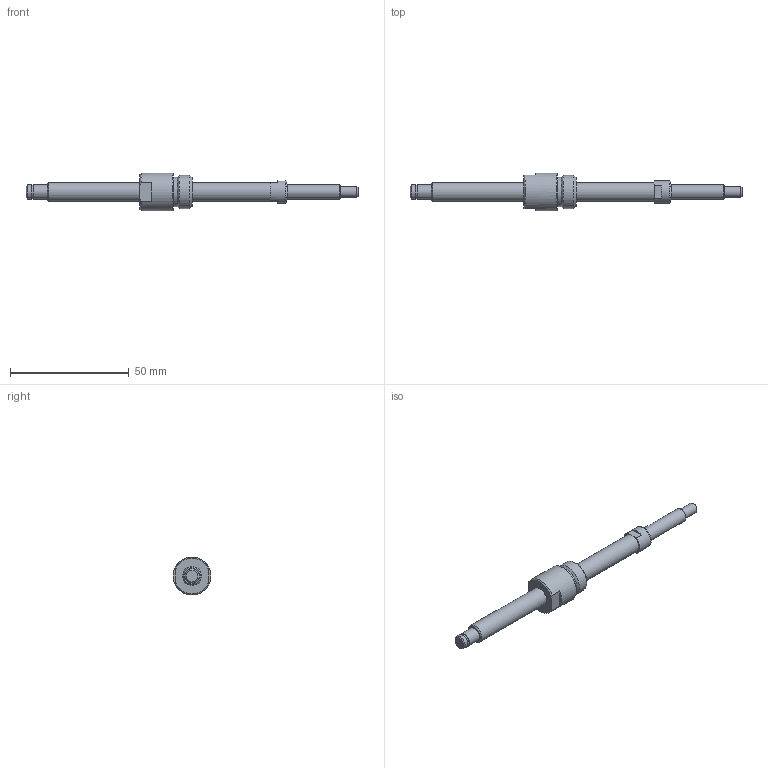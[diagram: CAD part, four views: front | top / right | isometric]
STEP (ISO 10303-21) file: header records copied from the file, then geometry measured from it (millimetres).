
FILE_DESCRIPTION(/* description */ ('STEP AP214'),/* implementation_level */ '2;1');
FILE_NAME(/* name */ 'NSG0801-091R140C5B0X(39)',/* time_stamp */ '2026-08-20T15:47:03+02:00',/* author */ ('License CC BY-ND 4.0'),/* organization */ ('CADENAS'),/* preprocessor_version */ 'ST-DEVELOPER v20',/* originating_system */ 'PARTsolutions',/* authorisation */ ' ');
FILE_SCHEMA (('AUTOMOTIVE_DESIGN {1 0 10303 214 3 1 1}'));
Length unit declared in the file: millimetre
Products named in the file (3): NSG0801-091R140C5B0X(39); NSG0801-91R140C3B_shaft; NSG0801_nut
Assembly tree (2 placements, depth 2):
  NSG0801-091R140C5B0X(39)
    NSG0801-91R140C3B_shaft
    NSG0801_nut
Bounding box: 140 x 16 x 16 mm (x, y, z)
Volume: 8991.8 mm3; surface area: 5284.9 mm2
Topology: 2 solids, 2 shells, 42 faces, 83 edges, 51 vertices
Faces by surface type: plane 20, cylinder 11, cone 10, torus 1
Full cylindrical faces by diameter (mm): 4.5 x1, 5.7 x1, 6 x3, 8 x2, 9.5 x1, 12.4 x1, 14 x1, 16 x1
Entity records: 1047 total; most frequent: DIRECTION 186, CARTESIAN_POINT 167, ORIENTED_EDGE 122, AXIS2_PLACEMENT_3D 84, EDGE_LOOP 70, FACE_BOUND 70, EDGE_CURVE 61, VERTEX_POINT 49
